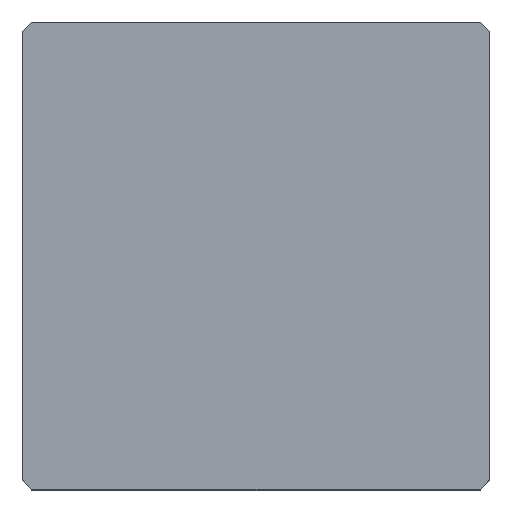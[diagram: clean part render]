
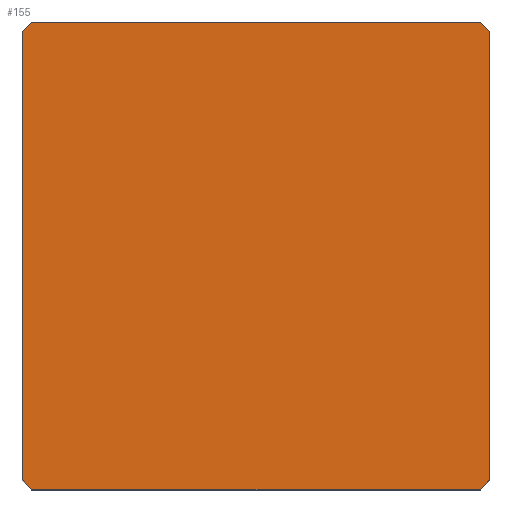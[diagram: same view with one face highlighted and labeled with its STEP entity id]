
A CAD part, top view. The second image highlights one B-rep face of the part: STEP entity #155.
In plain terms, the highlighted planar face has unit normal (0, 0, 1).
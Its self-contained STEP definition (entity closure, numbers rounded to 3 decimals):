
#39 = EDGE_CURVE('',#40,#42,#44,.T.);
#40 = VERTEX_POINT('',#41);
#41 = CARTESIAN_POINT('',(-10.,-9.6,18.25));
#42 = VERTEX_POINT('',#43);
#43 = CARTESIAN_POINT('',(-10.,9.6,18.25));
#44 = SURFACE_CURVE('',#45,(#49,#61),.PCURVE_S1.);
#45 = LINE('',#46,#47);
#46 = CARTESIAN_POINT('',(-10.,-10.,18.25));
#47 = VECTOR('',#48,1.);
#48 = DIRECTION('',(-0.,1.,0.));
#49 = PCURVE('',#50,#55);
#50 = PLANE('',#51);
#51 = AXIS2_PLACEMENT_3D('',#52,#53,#54);
#52 = CARTESIAN_POINT('',(-10.,-10.,0.));
#53 = DIRECTION('',(1.,0.,-0.));
#54 = DIRECTION('',(0.,0.,1.));
#55 = DEFINITIONAL_REPRESENTATION('',(#56),#60);
#56 = LINE('',#57,#58);
#57 = CARTESIAN_POINT('',(18.25,0.));
#58 = VECTOR('',#59,1.);
#59 = DIRECTION('',(0.,-1.));
#60 = ( GEOMETRIC_REPRESENTATION_CONTEXT(2) 
PARAMETRIC_REPRESENTATION_CONTEXT() REPRESENTATION_CONTEXT('2D SPACE',''
  ) );
#61 = PCURVE('',#62,#67);
#62 = PLANE('',#63);
#63 = AXIS2_PLACEMENT_3D('',#64,#65,#66);
#64 = CARTESIAN_POINT('',(-10.,-10.,18.25));
#65 = DIRECTION('',(0.,0.,1.));
#66 = DIRECTION('',(1.,0.,-0.));
#67 = DEFINITIONAL_REPRESENTATION('',(#68),#72);
#68 = LINE('',#69,#70);
#69 = CARTESIAN_POINT('',(0.,0.));
#70 = VECTOR('',#71,1.);
#71 = DIRECTION('',(0.,1.));
#72 = ( GEOMETRIC_REPRESENTATION_CONTEXT(2) 
PARAMETRIC_REPRESENTATION_CONTEXT() REPRESENTATION_CONTEXT('2D SPACE',''
  ) );
#90 = PLANE('',#91);
#91 = AXIS2_PLACEMENT_3D('',#92,#93,#94);
#92 = CARTESIAN_POINT('',(-9.8,-9.8,0.));
#93 = DIRECTION('',(-0.707,-0.707,0.));
#94 = DIRECTION('',(-0.,-0.,-1.));
#144 = PLANE('',#145);
#145 = AXIS2_PLACEMENT_3D('',#146,#147,#148);
#146 = CARTESIAN_POINT('',(-9.8,9.8,0.));
#147 = DIRECTION('',(0.707,-0.707,0.));
#148 = DIRECTION('',(-0.,-0.,-1.));
#155 = ADVANCED_FACE('',(#156),#62,.T.);
#156 = FACE_BOUND('',#157,.T.);
#157 = EDGE_LOOP('',(#158,#159,#182,#210,#238,#266,#294,#322));
#158 = ORIENTED_EDGE('',*,*,#39,.F.);
#159 = ORIENTED_EDGE('',*,*,#160,.T.);
#160 = EDGE_CURVE('',#40,#161,#163,.T.);
#161 = VERTEX_POINT('',#162);
#162 = CARTESIAN_POINT('',(-9.6,-10.,18.25));
#163 = SURFACE_CURVE('',#164,(#168,#175),.PCURVE_S1.);
#164 = LINE('',#165,#166);
#165 = CARTESIAN_POINT('',(-9.8,-9.8,18.25));
#166 = VECTOR('',#167,1.);
#167 = DIRECTION('',(0.707,-0.707,0.));
#168 = PCURVE('',#62,#169);
#169 = DEFINITIONAL_REPRESENTATION('',(#170),#174);
#170 = LINE('',#171,#172);
#171 = CARTESIAN_POINT('',(0.2,0.2));
#172 = VECTOR('',#173,1.);
#173 = DIRECTION('',(0.707,-0.707));
#174 = ( GEOMETRIC_REPRESENTATION_CONTEXT(2) 
PARAMETRIC_REPRESENTATION_CONTEXT() REPRESENTATION_CONTEXT('2D SPACE',''
  ) );
#175 = PCURVE('',#90,#176);
#176 = DEFINITIONAL_REPRESENTATION('',(#177),#181);
#177 = LINE('',#178,#179);
#178 = CARTESIAN_POINT('',(-18.25,0.));
#179 = VECTOR('',#180,1.);
#180 = DIRECTION('',(-0.,1.));
#181 = ( GEOMETRIC_REPRESENTATION_CONTEXT(2) 
PARAMETRIC_REPRESENTATION_CONTEXT() REPRESENTATION_CONTEXT('2D SPACE',''
  ) );
#182 = ORIENTED_EDGE('',*,*,#183,.T.);
#183 = EDGE_CURVE('',#161,#184,#186,.T.);
#184 = VERTEX_POINT('',#185);
#185 = CARTESIAN_POINT('',(9.6,-10.,18.25));
#186 = SURFACE_CURVE('',#187,(#191,#198),.PCURVE_S1.);
#187 = LINE('',#188,#189);
#188 = CARTESIAN_POINT('',(-10.,-10.,18.25));
#189 = VECTOR('',#190,1.);
#190 = DIRECTION('',(1.,0.,-0.));
#191 = PCURVE('',#62,#192);
#192 = DEFINITIONAL_REPRESENTATION('',(#193),#197);
#193 = LINE('',#194,#195);
#194 = CARTESIAN_POINT('',(0.,0.));
#195 = VECTOR('',#196,1.);
#196 = DIRECTION('',(1.,0.));
#197 = ( GEOMETRIC_REPRESENTATION_CONTEXT(2) 
PARAMETRIC_REPRESENTATION_CONTEXT() REPRESENTATION_CONTEXT('2D SPACE',''
  ) );
#198 = PCURVE('',#199,#204);
#199 = PLANE('',#200);
#200 = AXIS2_PLACEMENT_3D('',#201,#202,#203);
#201 = CARTESIAN_POINT('',(-10.,-10.,0.));
#202 = DIRECTION('',(-0.,1.,0.));
#203 = DIRECTION('',(0.,0.,1.));
#204 = DEFINITIONAL_REPRESENTATION('',(#205),#209);
#205 = LINE('',#206,#207);
#206 = CARTESIAN_POINT('',(18.25,0.));
#207 = VECTOR('',#208,1.);
#208 = DIRECTION('',(0.,1.));
#209 = ( GEOMETRIC_REPRESENTATION_CONTEXT(2) 
PARAMETRIC_REPRESENTATION_CONTEXT() REPRESENTATION_CONTEXT('2D SPACE',''
  ) );
#210 = ORIENTED_EDGE('',*,*,#211,.F.);
#211 = EDGE_CURVE('',#212,#184,#214,.T.);
#212 = VERTEX_POINT('',#213);
#213 = CARTESIAN_POINT('',(10.,-9.6,18.25));
#214 = SURFACE_CURVE('',#215,(#219,#226),.PCURVE_S1.);
#215 = LINE('',#216,#217);
#216 = CARTESIAN_POINT('',(4.8,-14.8,18.25));
#217 = VECTOR('',#218,1.);
#218 = DIRECTION('',(-0.707,-0.707,0.));
#219 = PCURVE('',#62,#220);
#220 = DEFINITIONAL_REPRESENTATION('',(#221),#225);
#221 = LINE('',#222,#223);
#222 = CARTESIAN_POINT('',(14.8,-4.8));
#223 = VECTOR('',#224,1.);
#224 = DIRECTION('',(-0.707,-0.707));
#225 = ( GEOMETRIC_REPRESENTATION_CONTEXT(2) 
PARAMETRIC_REPRESENTATION_CONTEXT() REPRESENTATION_CONTEXT('2D SPACE',''
  ) );
#226 = PCURVE('',#227,#232);
#227 = PLANE('',#228);
#228 = AXIS2_PLACEMENT_3D('',#229,#230,#231);
#229 = CARTESIAN_POINT('',(9.8,-9.8,0.));
#230 = DIRECTION('',(-0.707,0.707,0.));
#231 = DIRECTION('',(-0.,-0.,-1.));
#232 = DEFINITIONAL_REPRESENTATION('',(#233),#237);
#233 = LINE('',#234,#235);
#234 = CARTESIAN_POINT('',(-18.25,7.071));
#235 = VECTOR('',#236,1.);
#236 = DIRECTION('',(-0.,1.));
#237 = ( GEOMETRIC_REPRESENTATION_CONTEXT(2) 
PARAMETRIC_REPRESENTATION_CONTEXT() REPRESENTATION_CONTEXT('2D SPACE',''
  ) );
#238 = ORIENTED_EDGE('',*,*,#239,.T.);
#239 = EDGE_CURVE('',#212,#240,#242,.T.);
#240 = VERTEX_POINT('',#241);
#241 = CARTESIAN_POINT('',(10.,9.6,18.25));
#242 = SURFACE_CURVE('',#243,(#247,#254),.PCURVE_S1.);
#243 = LINE('',#244,#245);
#244 = CARTESIAN_POINT('',(10.,-10.,18.25));
#245 = VECTOR('',#246,1.);
#246 = DIRECTION('',(-0.,1.,0.));
#247 = PCURVE('',#62,#248);
#248 = DEFINITIONAL_REPRESENTATION('',(#249),#253);
#249 = LINE('',#250,#251);
#250 = CARTESIAN_POINT('',(20.,0.));
#251 = VECTOR('',#252,1.);
#252 = DIRECTION('',(0.,1.));
#253 = ( GEOMETRIC_REPRESENTATION_CONTEXT(2) 
PARAMETRIC_REPRESENTATION_CONTEXT() REPRESENTATION_CONTEXT('2D SPACE',''
  ) );
#254 = PCURVE('',#255,#260);
#255 = PLANE('',#256);
#256 = AXIS2_PLACEMENT_3D('',#257,#258,#259);
#257 = CARTESIAN_POINT('',(10.,-10.,0.));
#258 = DIRECTION('',(1.,0.,-0.));
#259 = DIRECTION('',(0.,0.,1.));
#260 = DEFINITIONAL_REPRESENTATION('',(#261),#265);
#261 = LINE('',#262,#263);
#262 = CARTESIAN_POINT('',(18.25,0.));
#263 = VECTOR('',#264,1.);
#264 = DIRECTION('',(0.,-1.));
#265 = ( GEOMETRIC_REPRESENTATION_CONTEXT(2) 
PARAMETRIC_REPRESENTATION_CONTEXT() REPRESENTATION_CONTEXT('2D SPACE',''
  ) );
#266 = ORIENTED_EDGE('',*,*,#267,.T.);
#267 = EDGE_CURVE('',#240,#268,#270,.T.);
#268 = VERTEX_POINT('',#269);
#269 = CARTESIAN_POINT('',(9.6,10.,18.25));
#270 = SURFACE_CURVE('',#271,(#275,#282),.PCURVE_S1.);
#271 = LINE('',#272,#273);
#272 = CARTESIAN_POINT('',(9.8,9.8,18.25));
#273 = VECTOR('',#274,1.);
#274 = DIRECTION('',(-0.707,0.707,0.));
#275 = PCURVE('',#62,#276);
#276 = DEFINITIONAL_REPRESENTATION('',(#277),#281);
#277 = LINE('',#278,#279);
#278 = CARTESIAN_POINT('',(19.8,19.8));
#279 = VECTOR('',#280,1.);
#280 = DIRECTION('',(-0.707,0.707));
#281 = ( GEOMETRIC_REPRESENTATION_CONTEXT(2) 
PARAMETRIC_REPRESENTATION_CONTEXT() REPRESENTATION_CONTEXT('2D SPACE',''
  ) );
#282 = PCURVE('',#283,#288);
#283 = PLANE('',#284);
#284 = AXIS2_PLACEMENT_3D('',#285,#286,#287);
#285 = CARTESIAN_POINT('',(9.8,9.8,0.));
#286 = DIRECTION('',(0.707,0.707,0.));
#287 = DIRECTION('',(-0.,0.,-1.));
#288 = DEFINITIONAL_REPRESENTATION('',(#289),#293);
#289 = LINE('',#290,#291);
#290 = CARTESIAN_POINT('',(-18.25,0.));
#291 = VECTOR('',#292,1.);
#292 = DIRECTION('',(-0.,1.));
#293 = ( GEOMETRIC_REPRESENTATION_CONTEXT(2) 
PARAMETRIC_REPRESENTATION_CONTEXT() REPRESENTATION_CONTEXT('2D SPACE',''
  ) );
#294 = ORIENTED_EDGE('',*,*,#295,.F.);
#295 = EDGE_CURVE('',#296,#268,#298,.T.);
#296 = VERTEX_POINT('',#297);
#297 = CARTESIAN_POINT('',(-9.6,10.,18.25));
#298 = SURFACE_CURVE('',#299,(#303,#310),.PCURVE_S1.);
#299 = LINE('',#300,#301);
#300 = CARTESIAN_POINT('',(-10.,10.,18.25));
#301 = VECTOR('',#302,1.);
#302 = DIRECTION('',(1.,0.,-0.));
#303 = PCURVE('',#62,#304);
#304 = DEFINITIONAL_REPRESENTATION('',(#305),#309);
#305 = LINE('',#306,#307);
#306 = CARTESIAN_POINT('',(0.,20.));
#307 = VECTOR('',#308,1.);
#308 = DIRECTION('',(1.,0.));
#309 = ( GEOMETRIC_REPRESENTATION_CONTEXT(2) 
PARAMETRIC_REPRESENTATION_CONTEXT() REPRESENTATION_CONTEXT('2D SPACE',''
  ) );
#310 = PCURVE('',#311,#316);
#311 = PLANE('',#312);
#312 = AXIS2_PLACEMENT_3D('',#313,#314,#315);
#313 = CARTESIAN_POINT('',(-10.,10.,0.));
#314 = DIRECTION('',(-0.,1.,0.));
#315 = DIRECTION('',(0.,0.,1.));
#316 = DEFINITIONAL_REPRESENTATION('',(#317),#321);
#317 = LINE('',#318,#319);
#318 = CARTESIAN_POINT('',(18.25,0.));
#319 = VECTOR('',#320,1.);
#320 = DIRECTION('',(0.,1.));
#321 = ( GEOMETRIC_REPRESENTATION_CONTEXT(2) 
PARAMETRIC_REPRESENTATION_CONTEXT() REPRESENTATION_CONTEXT('2D SPACE',''
  ) );
#322 = ORIENTED_EDGE('',*,*,#323,.F.);
#323 = EDGE_CURVE('',#42,#296,#324,.T.);
#324 = SURFACE_CURVE('',#325,(#329,#336),.PCURVE_S1.);
#325 = LINE('',#326,#327);
#326 = CARTESIAN_POINT('',(-14.8,4.8,18.25));
#327 = VECTOR('',#328,1.);
#328 = DIRECTION('',(0.707,0.707,-0.));
#329 = PCURVE('',#62,#330);
#330 = DEFINITIONAL_REPRESENTATION('',(#331),#335);
#331 = LINE('',#332,#333);
#332 = CARTESIAN_POINT('',(-4.8,14.8));
#333 = VECTOR('',#334,1.);
#334 = DIRECTION('',(0.707,0.707));
#335 = ( GEOMETRIC_REPRESENTATION_CONTEXT(2) 
PARAMETRIC_REPRESENTATION_CONTEXT() REPRESENTATION_CONTEXT('2D SPACE',''
  ) );
#336 = PCURVE('',#144,#337);
#337 = DEFINITIONAL_REPRESENTATION('',(#338),#342);
#338 = LINE('',#339,#340);
#339 = CARTESIAN_POINT('',(-18.25,-7.071));
#340 = VECTOR('',#341,1.);
#341 = DIRECTION('',(-0.,1.));
#342 = ( GEOMETRIC_REPRESENTATION_CONTEXT(2) 
PARAMETRIC_REPRESENTATION_CONTEXT() REPRESENTATION_CONTEXT('2D SPACE',''
  ) );
